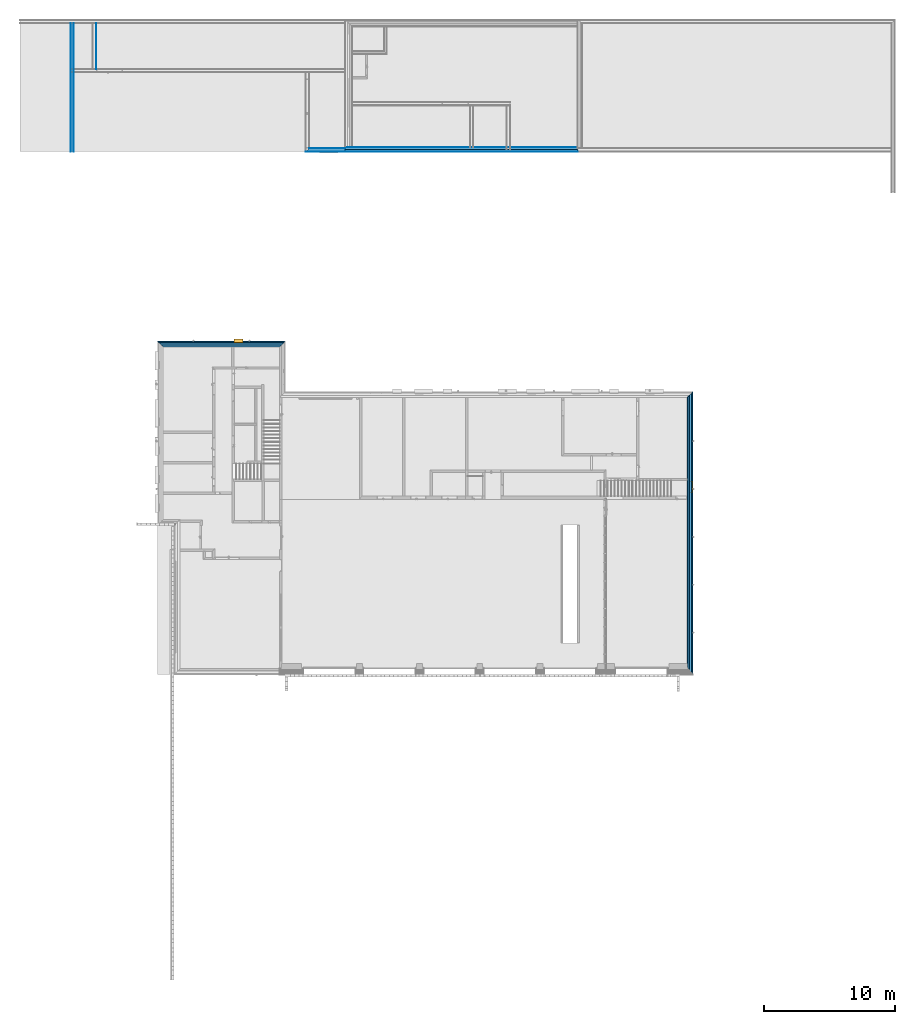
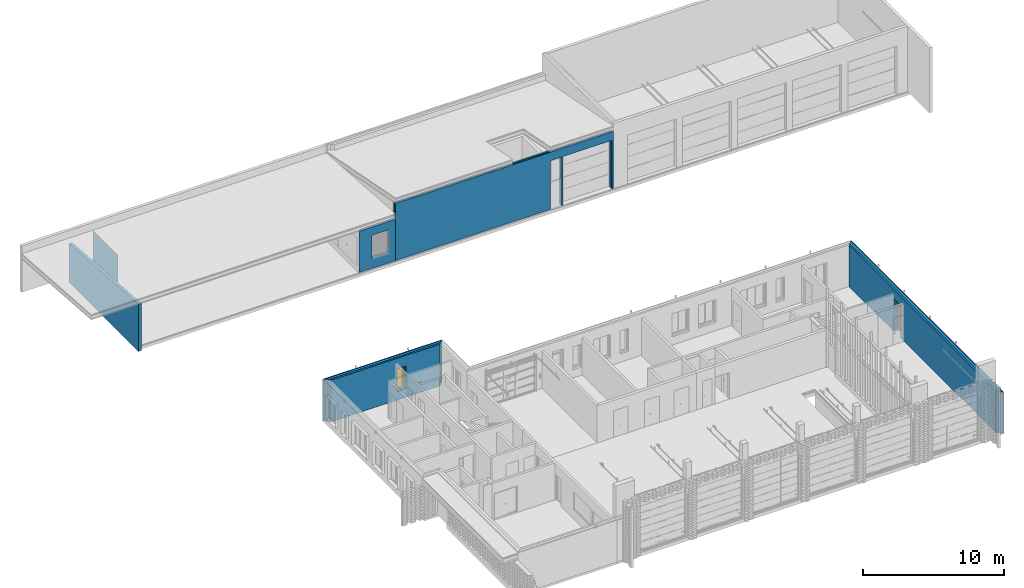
# One storey, part 22 of 62: 17 building element parts, 1 door, 1 window, 8 openings, 6 elements without a shape of their own.
"""IFC2X3 building model written with IfcOpenShell, lengths in millimetres."""

from ifc_helpers import new_model, entity, si_unit, converted_unit, derived_unit, money_unit, direction, frame, origin_with_axes, origin_2d_with_axis, place, context, subcontext, project, spatial, polyline, rectangle, outline, extrude, clip, bounded_halfspace, open_shell, faceted_brep, surface_model, source, transform, mapped, material, type_object, element, fill, aggregate, save


model = new_model("IFC2X3")

# Units and contexts
model_context = context("Model", 3, precision=0.01, world=origin_with_axes(), true_north=direction((0.0, 1.0)))
body_context = subcontext(model_context, "Body", "Model", "MODEL_VIEW")
ifc_project = project(units=[si_unit("LENGTHUNIT", "METRE", prefix="MILLI"), si_unit("AREAUNIT", "SQUARE_METRE"), si_unit("VOLUMEUNIT", "CUBIC_METRE"), converted_unit("PLANEANGLEUNIT", "DEGREE", entity("IfcPlaneAngleMeasure", 0.0174532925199), si_unit("PLANEANGLEUNIT", "RADIAN"), dimensions=[0, 0, 0, 0, 0, 0, 0]), si_unit("SOLIDANGLEUNIT", "STERADIAN"), money_unit("EUR"), converted_unit("TIMEUNIT", "Year", entity("IfcTimeMeasure", 31556926.0), si_unit("TIMEUNIT", "SECOND"), dimensions=[0, 0, 1, 0, 0, 0, 0]), si_unit("MASSUNIT", "GRAM", prefix="KILO"), si_unit("THERMODYNAMICTEMPERATUREUNIT", "DEGREE_CELSIUS"), si_unit("LUMINOUSINTENSITYUNIT", "LUMEN"), si_unit("ENERGYUNIT", "JOULE", prefix="MEGA"), derived_unit("THERMALCONDUCTANCEUNIT", [(si_unit("POWERUNIT", "WATT"), 1), (si_unit("LENGTHUNIT", "METRE"), -1), (si_unit("THERMODYNAMICTEMPERATUREUNIT", "KELVIN"), -1)]), derived_unit("SPECIFICHEATCAPACITYUNIT", [(si_unit("ENERGYUNIT", "JOULE"), 1), (si_unit("MASSUNIT", "GRAM", prefix="KILO"), -1), (si_unit("THERMODYNAMICTEMPERATUREUNIT", "KELVIN"), -1)]), derived_unit("MASSDENSITYUNIT", [(si_unit("MASSUNIT", "GRAM", prefix="KILO"), 1), (si_unit("VOLUMEUNIT", "CUBIC_METRE"), -1)])], contexts=[model_context])

# Site, building, storey
site_placement = place(None, origin_with_axes())
site = spatial("IfcSite", under=ifc_project, at=site_placement, Name="KIRDE 14, ELVA", CompositionType="ELEMENT")
building_placement = place(site_placement, origin_with_axes())
building = spatial("IfcBuilding", under=site, at=building_placement, Name="PPA ja Päästeameti ühishoone", CompositionType="ELEMENT")
storey_placement = place(building_placement, origin_with_axes())
storey = spatial("IfcBuildingStorey", under=building, at=storey_placement, Name="Esimene korrus", CompositionType="ELEMENT", Elevation=0.0)

# Window
window_style = type_object("IfcWindowStyle", Name="Window 24", ConstructionType="NOTDEFINED", OperationType="SINGLE_PANEL", ParameterTakesPrecedence=False, Sizeable=False)
shared_shape_1 = source(origin_with_axes(), body_context, "Body", "SurfaceModel", [
    faceted_brep([(350.0, -50.0, 0.0), (350.0, -130.0, 0.0), (-350.0, -130.0, 0.0), (-350.0, -50.0, 0.0), (350.0, -50.0, 2000.0), (350.0, -130.0, 2000.0), (-350.0, -130.0, 2000.0), (345.0, -130.0, 5.0), (-345.0, -130.0, 5.0), (-345.0, -130.0, 1995.0), (345.0, -130.0, 1995.0), (-350.0, -50.0, 2000.0), (345.0, -50.0, 5.0), (345.0, -50.0, 1995.0), (-345.0, -50.0, 1995.0), (-345.0, -50.0, 5.0)], [[[0, 1, 2, 3]], [[4, 5, 1, 0]], [[1, 5, 6, 2], [7, 8, 9, 10]], [[3, 2, 6, 11]], [[0, 3, 11, 4], [12, 13, 14, 15]], [[11, 6, 5, 4]], [[15, 8, 7, 12]], [[14, 9, 8, 15]], [[13, 10, 9, 14]], [[12, 7, 10, 13]]]),
    faceted_brep([(350.0, -330.0, 0.0), (345.0, -330.0, 5.0), (345.0, -130.0, 5.0), (350.0, -130.0, 0.0), (350.0, -330.0, 2000.0), (345.0, -330.0, 1995.0), (345.0, -130.0, 1995.0), (350.0, -130.0, 2000.0)], [[[0, 1, 2, 3]], [[0, 4, 5, 1]], [[1, 5, 6, 2]], [[3, 2, 6, 7]], [[4, 0, 3, 7]], [[5, 4, 7, 6]]]),
    faceted_brep([(-350.0, -330.0, 2000.0), (-345.0, -330.0, 1995.0), (-345.0, -130.0, 1995.0), (-350.0, -130.0, 2000.0), (-350.0, -330.0, 0.0), (-345.0, -330.0, 5.0), (-345.0, -130.0, 5.0), (-350.0, -130.0, 0.0)], [[[0, 1, 2, 3]], [[0, 4, 5, 1]], [[1, 5, 6, 2]], [[3, 2, 6, 7]], [[4, 0, 3, 7]], [[5, 4, 7, 6]]]),
    faceted_brep([(-350.0, -330.0, 0.0), (-345.0, -330.0, 5.0), (-345.0, -130.0, 5.0), (-350.0, -130.0, 0.0), (350.0, -330.0, 0.0), (345.0, -330.0, 5.0), (345.0, -130.0, 5.0), (350.0, -130.0, 0.0)], [[[0, 1, 2, 3]], [[0, 4, 5, 1]], [[1, 5, 6, 2]], [[3, 2, 6, 7]], [[4, 0, 3, 7]], [[5, 4, 7, 6]]]),
    faceted_brep([(350.0, -330.0, 2000.0), (345.0, -330.0, 1995.0), (345.0, -130.0, 1995.0), (350.0, -130.0, 2000.0), (-350.0, -330.0, 2000.0), (-345.0, -330.0, 1995.0), (-345.0, -130.0, 1995.0), (-350.0, -130.0, 2000.0)], [[[0, 1, 2, 3]], [[0, 4, 5, 1]], [[1, 5, 6, 2]], [[3, 2, 6, 7]], [[4, 0, 3, 7]], [[5, 4, 7, 6]]]),
    faceted_brep([(235.0, -50.0, 1885.0), (350.0, -50.0, 1885.0), (350.0, 0.0, 1885.0), (235.0, 0.0, 1885.0), (235.0, -50.0, 115.0), (350.0, -50.0, 115.0), (350.0, 0.0, 115.0), (235.0, 0.0, 115.0)], [[[0, 1, 2, 3]], [[0, 4, 5, 1]], [[1, 5, 6, 2]], [[3, 2, 6, 7]], [[4, 0, 3, 7]], [[5, 4, 7, 6]]]),
    faceted_brep([(-235.0, -50.0, 115.0), (-350.0, -50.0, 115.0), (-350.0, 0.0, 115.0), (-235.0, 0.0, 115.0), (-235.0, -50.0, 1885.0), (-350.0, -50.0, 1885.0), (-350.0, 0.0, 1885.0), (-235.0, 0.0, 1885.0)], [[[0, 1, 2, 3]], [[0, 4, 5, 1]], [[1, 5, 6, 2]], [[3, 2, 6, 7]], [[4, 0, 3, 7]], [[5, 4, 7, 6]]]),
    faceted_brep([(235.0, -50.0, 115.0), (350.0, -50.0, 115.0), (350.0, 0.0, 115.0), (235.0, 0.0, 115.0), (-235.0, -50.0, 115.0), (-350.0, -50.0, 115.0), (-350.0, -50.0, 0.0), (350.0, -50.0, 0.0), (350.0, 0.0, 0.0), (-350.0, 0.0, 0.0), (-350.0, 0.0, 115.0), (-235.0, 0.0, 115.0)], [[[0, 1, 2, 3]], [[0, 4, 5, 6, 7, 1]], [[1, 7, 8, 2]], [[3, 2, 8, 9, 10, 11]], [[4, 0, 3, 11]], [[5, 4, 11, 10]], [[6, 5, 10, 9]], [[7, 6, 9, 8]]]),
    faceted_brep([(-235.0, -50.0, 1885.0), (-350.0, -50.0, 1885.0), (-350.0, 0.0, 1885.0), (-235.0, 0.0, 1885.0), (235.0, -50.0, 1885.0), (350.0, -50.0, 1885.0), (350.0, -50.0, 2000.0), (-350.0, -50.0, 2000.0), (-350.0, 0.0, 2000.0), (350.0, 0.0, 2000.0), (350.0, 0.0, 1885.0), (235.0, 0.0, 1885.0)], [[[0, 1, 2, 3]], [[0, 4, 5, 6, 7, 1]], [[1, 7, 8, 2]], [[3, 2, 8, 9, 10, 11]], [[4, 0, 3, 11]], [[5, 4, 11, 10]], [[6, 5, 10, 9]], [[7, 6, 9, 8]]]),
    surface_model("IfcShellBasedSurfaceModel", [(235.0, -35.0, 115.0), (235.0, -35.0, 1885.0), (-235.0, -35.0, 1885.0), (-235.0, -35.0, 115.0)], [open_shell([[[0, 1, 2, 3]]])]),
    surface_model("IfcShellBasedSurfaceModel", [(235.0, -15.0, 115.0), (-235.0, -15.0, 115.0), (-235.0, -15.0, 1885.0), (235.0, -15.0, 1885.0)], [open_shell([[[0, 1, 2, 3]]])]),
])
wall_3_placement = place(storey_placement, frame((9.31322574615e-07, 24599.8167323, 0.0), z_axis=(0.0, 0.0, 1.0), x_axis=(1.0, 4.18571937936e-10, 0.0)))
opening_3_placement = place(wall_3_placement, frame((5760.00000859, 0.0, 700.0), z_axis=(0.0, 0.0, 1.0), x_axis=(1.0, 0.0, 0.0)))
window_placement = place(opening_3_placement, frame((350.0, 0.0, 0.0), z_axis=(0.0, 0.0, 1.0), x_axis=(-1.0, 0.0, 0.0)))
window = element("IfcWindow", 1, at=window_placement, inside=storey, type_object=window_style, Name="A-01", ObjectType="WINDOW", OverallHeight=2000.0, OverallWidth=700.0, context=body_context, shape_type="MappedRepresentation", body=[
    mapped(shared_shape_1, transform((349.999999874, -299.999997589, 0.0))),
])

# Door
door_style = type_object("IfcDoorStyle", Name="Door with Transom 24", ConstructionType="NOTDEFINED", OperationType="SINGLE_SWING_LEFT", ParameterTakesPrecedence=False, Sizeable=False)
shared_shape_2 = source(origin_with_axes(), body_context, "Body", "SurfaceModel", [
    faceted_brep([(410.0, -40.0, 2312.0), (410.0, -40.0, 0.0), (410.0, -115.0, 0.0), (410.0, -115.0, 2300.0), (410.0, -115.0, 2340.0), (410.0, 0.0, 2340.0), (410.0, 0.0, 2312.0), (422.0, -40.0, 2312.0), (422.0, -40.0, 0.0), (422.0, 0.0, 0.0), (450.0, 0.0, 0.0), (450.0, -115.0, 0.0), (450.0, -115.0, 2760.0), (410.0, -115.0, 2760.0), (410.0, 0.0, 2760.0), (422.0, 0.0, 2312.0), (450.0, 0.0, 2760.0)], [[[0, 1, 2, 3, 4, 5, 6]], [[0, 7, 8, 1]], [[8, 9, 10, 11, 2, 1]], [[4, 3, 2, 11, 12, 13]], [[14, 5, 4, 13]], [[15, 6, 5, 14, 16, 10, 9]], [[6, 15, 7, 0]], [[9, 8, 7, 15]], [[10, 16, 12, 11]], [[16, 14, 13, 12]]]),
    faceted_brep([(-422.0, 0.0, 2312.0), (-422.0, 0.0, 0.0), (-450.0, 0.0, 0.0), (-450.0, 0.0, 2760.0), (-410.0, 0.0, 2760.0), (-410.0, 0.0, 2340.0), (-410.0, 0.0, 2312.0), (-422.0, -40.0, 2312.0), (-422.0, -40.0, 0.0), (-410.0, -40.0, 0.0), (-410.0, -115.0, 0.0), (-450.0, -115.0, 0.0), (-450.0, -115.0, 2760.0), (-410.0, -115.0, 2760.0), (-410.0, -115.0, 2340.0), (-410.0, -40.0, 2312.0), (-410.0, -115.0, 2300.0)], [[[0, 1, 2, 3, 4, 5, 6]], [[0, 7, 8, 1]], [[8, 9, 10, 11, 2, 1]], [[3, 2, 11, 12]], [[4, 3, 12, 13]], [[5, 4, 13, 14]], [[15, 6, 5, 14, 16, 10, 9]], [[6, 15, 7, 0]], [[8, 7, 15, 9]], [[14, 13, 12, 11, 10, 16]]]),
    faceted_brep([(450.0, 0.0, 2800.0), (450.0, -115.0, 2800.0), (450.0, -115.0, 2760.0), (450.0, 0.0, 2760.0), (-450.0, 0.0, 2800.0), (-450.0, -115.0, 2800.0), (-450.0, -115.0, 2760.0), (-410.0, -115.0, 2760.0), (410.0, -115.0, 2760.0), (410.0, 0.0, 2760.0), (-410.0, 0.0, 2760.0), (-450.0, 0.0, 2760.0)], [[[0, 1, 2, 3]], [[4, 5, 1, 0]], [[1, 5, 6, 7, 8, 2]], [[3, 2, 8, 9]], [[0, 3, 9, 10, 11, 4]], [[11, 6, 5, 4]], [[10, 7, 6, 11]], [[9, 8, 7, 10]]]),
    faceted_brep([(-410.0, -40.0, 2312.0), (-410.0, -40.0, 2300.0), (-410.0, -115.0, 2300.0), (-410.0, -115.0, 2340.0), (-410.0, 0.0, 2340.0), (-410.0, 0.0, 2312.0), (410.0, -40.0, 2312.0), (410.0, -40.0, 2300.0), (410.0, -115.0, 2300.0), (410.0, -115.0, 2340.0), (410.0, 0.0, 2340.0), (410.0, 0.0, 2312.0)], [[[0, 1, 2, 3, 4, 5]], [[0, 6, 7, 1]], [[7, 8, 2, 1]], [[8, 9, 3, 2]], [[10, 4, 3, 9]], [[5, 4, 10, 11]], [[5, 11, 6, 0]], [[6, 11, 10, 9, 8, 7]]]),
    faceted_brep([(-422.0, 0.0, 0.0), (422.0, 0.0, 0.0), (422.0, -40.0, 0.0), (-422.0, -40.0, 0.0), (-422.0, 0.0, 2312.0), (422.0, 0.0, 2312.0), (422.0, -40.0, 2312.0), (-422.0, -40.0, 2312.0)], [[[0, 1, 2, 3]], [[0, 4, 5, 1]], [[1, 5, 6, 2]], [[3, 2, 6, 7]], [[4, 0, 3, 7]], [[5, 4, 7, 6]]]),
    surface_model("IfcShellBasedSurfaceModel", [(410.0, -51.5, 2340.0), (-410.0, -51.5, 2340.0), (-410.0, -51.5, 2760.0), (410.0, -51.5, 2760.0)], [open_shell([[[0, 1, 2, 3]]])]),
    surface_model("IfcShellBasedSurfaceModel", [(410.0, -63.5, 2340.0), (410.0, -63.5, 2760.0), (-410.0, -63.5, 2760.0), (-410.0, -63.5, 2340.0)], [open_shell([[[0, 1, 2, 3]]])]),
])
wall_5_placement = place(storey_placement, frame((40044.7048824, 20749.5916413, 0.0), z_axis=(0.0, 0.0, 1.0), x_axis=(0.0, -1.0, 0.0)))
opening_8_placement = place(wall_5_placement, frame((6820.59107696, 0.0, 0.0), z_axis=(0.0, 0.0, 1.0), x_axis=(1.0, 0.0, 0.0)))
door_placement = place(opening_8_placement, frame((-450.0, 0.0, 0.0), z_axis=(0.0, 0.0, 1.0), x_axis=(1.0, 0.0, 0.0)))
door = element("IfcDoor", 2, at=door_placement, inside=storey, type_object=door_style, Name="VU-03", ObjectType="DOOR", OverallHeight=2800.0, OverallWidth=900.0, context=body_context, shape_type="MappedRepresentation", body=[
    mapped(shared_shape_2, transform((450.0, 430.0, 0.0))),
])

# Wall, openings, building element parts
wall_type_1 = type_object("IfcWallType", Name="A-VS01b 350", PredefinedType="NOTDEFINED")
wall_1_placement = place(storey_placement, frame((13908.9731322, 39534.5478473, 0.0), z_axis=(0.0, 0.0, 1.0), x_axis=(1.0, 0.0, 0.0)))
wall_1 = element("IfcWall", 3, at=wall_1_placement, inside=storey, type_object=wall_type_1, Name="VS-04")
opening_1_placement = place(wall_1_placement, frame((15651.6486447, 0.0, 0.0), z_axis=(0.0, 0.0, 1.0), x_axis=(1.0, 0.0, 0.0)))
element("IfcOpeningElement", 4, at=opening_1_placement, cuts=wall_1, Name="GUA-03", context=body_context, shape_type="SweptSolid", body=[
    extrude(rectangle(XDim=4000.0, YDim=4200.0, at=origin_2d_with_axis()), frame((0.0, 350.0, 2100.0), z_axis=(0.0, -1.0, 0.0), x_axis=(1.0, 0.0, 0.0)), (0.0, 0.0, 1.0), 1050.0),
])
opening_2_placement = place(wall_1_placement, frame((13067.6818848, 0.0, 0.0), z_axis=(0.0, 0.0, 1.0), x_axis=(1.0, 0.0, 0.0)))
element("IfcOpeningElement", 5, at=opening_2_placement, cuts=wall_1, Name="VU-03", context=body_context, shape_type="SweptSolid", body=[
    extrude(rectangle(XDim=900.0, YDim=4200.0, at=origin_2d_with_axis()), frame((0.0, 350.0, 2100.0), z_axis=(0.0, -1.0, 0.0), x_axis=(-1.0, 0.0, 0.0)), (0.0, 0.0, 1.0), 1050.0),
])
ifc_material_1 = material(Name="Krohv")
building_element_part_1_placement = place(wall_1_placement, origin_with_axes())
building_element_part_1 = element("IfcBuildingElementPart", 6, at=building_element_part_1_placement, material=ifc_material_1, Name="Krohv", context=body_context, shape_type="Clipping", body=[
    clip(extrude(outline(polyline([(0.0, 0.0), (17768.648645, 0.0), (17768.648645, 5.0), (0.0, 5.0), (0.0, 0.0)])), origin_with_axes(), (0.0, 0.0, 1.0), 4926.12680401), bounded_halfspace(frame((-3.23675819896e-07, 921.145515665, 4747.39530899), z_axis=(0.0, -0.190479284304, -0.981691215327), x_axis=(0.0, 0.981691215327, -0.190479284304)), True, origin_with_axes(), polyline([(-10.0, -10.0), (17768.648645, -10.0), (17768.648645, 360.0), (-10.0, 360.0), (-10.0, -10.0)]))),
])
ifc_material_2 = material(Name="Mineraalvill")
building_element_part_2_placement = place(wall_1_placement, origin_with_axes())
building_element_part_2 = element("IfcBuildingElementPart", 7, at=building_element_part_2_placement, material=ifc_material_2, Name="Mineraalvill", context=body_context, shape_type="Clipping", body=[
    clip(extrude(outline(polyline([(0.0, 5.0), (17768.648645, 5.0), (17768.648645, 155.0), (0.0, 155.0), (0.0, 5.0)])), origin_with_axes(), (0.0, 0.0, 1.0), 4926.12680401), bounded_halfspace(frame((-3.23675819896e-07, 921.145515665, 4747.39530899), z_axis=(0.0, -0.190479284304, -0.981691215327), x_axis=(0.0, 0.981691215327, -0.190479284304)), True, origin_with_axes(), polyline([(-10.0, -10.0), (17768.648645, -10.0), (17768.648645, 360.0), (-10.0, 360.0), (-10.0, -10.0)]))),
])
ifc_material_3 = material(Name="COLUMBIA KIVI")
building_element_part_3_placement = place(wall_1_placement, origin_with_axes())
building_element_part_3 = element("IfcBuildingElementPart", 8, at=building_element_part_3_placement, material=ifc_material_3, Name="COLUMBIA KIVI", context=body_context, shape_type="Clipping", body=[
    clip(extrude(outline(polyline([(0.0, 155.0), (17768.648645, 155.0), (17768.648645, 345.0), (0.0, 345.0), (0.0, 155.0)])), origin_with_axes(), (0.0, 0.0, 1.0), 4926.12680401), bounded_halfspace(frame((-3.23675819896e-07, 921.145515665, 4747.39530899), z_axis=(0.0, -0.190479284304, -0.981691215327), x_axis=(0.0, 0.981691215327, -0.190479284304)), True, origin_with_axes(), polyline([(-10.0, -10.0), (17768.648645, -10.0), (17768.648645, 360.0), (-10.0, 360.0), (-10.0, -10.0)]))),
])
building_element_part_4_placement = place(wall_1_placement, origin_with_axes())
building_element_part_4 = element("IfcBuildingElementPart", 9, at=building_element_part_4_placement, material=ifc_material_1, Name="Krohv", context=body_context, shape_type="Clipping", body=[
    clip(extrude(outline(polyline([(0.0, 345.0), (17768.648645, 345.0), (17768.648645, 350.0), (0.0, 350.0), (0.0, 345.0)])), origin_with_axes(), (0.0, 0.0, 1.0), 4926.12680401), bounded_halfspace(frame((-3.23675819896e-07, 921.145515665, 4747.39530899), z_axis=(0.0, -0.190479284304, -0.981691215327), x_axis=(0.0, 0.981691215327, -0.190479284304)), True, origin_with_axes(), polyline([(-10.0, -10.0), (17768.648645, -10.0), (17768.648645, 360.0), (-10.0, 360.0), (-10.0, -10.0)]))),
])
aggregate(wall_1, [building_element_part_1, building_element_part_2, building_element_part_3, building_element_part_4])

# Proxy, building element part
building_element_proxy_type = type_object("IfcBuildingElementProxyType", Name="A-SS01 260", PredefinedType="NOTDEFINED")
proxy_placement = place(storey_placement, frame((-5113.09739957, 45593.5478741, 0.0), z_axis=(0.0, 0.0, 1.0), x_axis=(0.0, 1.0, 0.0)))
proxy = element("IfcBuildingElementProxy", 10, at=proxy_placement, inside=storey, type_object=building_element_proxy_type, Name="VS-06")
building_element_part_5_placement = place(proxy_placement, origin_with_axes())
building_element_part_5 = element("IfcBuildingElementPart", 11, at=building_element_part_5_placement, material=ifc_material_1, Name="Krohv", context=body_context, shape_type="SweptSolid", body=[
    extrude(outline(polyline([(250.0, 0.0), (3755.00002539, 0.0), (3755.00002539, 5.0), (250.0, 5.0), (250.0, 0.0)])), origin_with_axes(), (0.0, 0.0, 1.0), 3322.35109752),
])
aggregate(proxy, [building_element_part_5])

# Wall, building element parts
wall_type_2 = type_object("IfcWallType", Name="A-VS02 250", PredefinedType="NOTDEFINED")
wall_2_placement = place(storey_placement, frame((-6826.83148172, 49598.5478995, -500.0), z_axis=(0.0, 0.0, 1.0), x_axis=(0.0, -1.0, 0.0)))
wall_2 = element("IfcWall", 12, at=wall_2_placement, inside=storey, type_object=wall_type_2, Name="A-VS01")
building_element_part_6_placement = place(wall_2_placement, origin_with_axes())
building_element_part_6 = element("IfcBuildingElementPart", 13, at=building_element_part_6_placement, material=ifc_material_1, Name="Krohv", context=body_context, shape_type="Clipping", body=[
    clip(clip(extrude(outline(polyline([(250.0, -5.0), (10064.0000596, -5.0), (10064.0000596, 0.0), (250.0, 0.0), (250.0, -5.0)])), origin_with_axes(), (0.0, 0.0, 1.0), 4220.77245672), bounded_halfspace(frame((-236.092735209, -9.72152171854e-08, 3348.02319989), z_axis=(0.0703423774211, 0.0, -0.997522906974), x_axis=(0.0, 1.0, 0.0)), True, origin_with_axes(), polyline([(199.990015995, -260.0), (10064.0000595, -260.0), (10064.0000594, 10.0), (199.990015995, 10.0), (199.990015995, -260.0)]))), bounded_halfspace(frame((-245.916273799, 0.0, 3487.33047284), z_axis=(0.0703423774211, 0.0, -0.997522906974), x_axis=(0.0, 1.0, 0.0)), True, origin_with_axes(), polyline([(4.99002557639, -260.0), (10155.0000256, -260.0), (10155.0000256, 10.0), (4.99002557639, 10.0), (4.99002557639, -260.0)]))),
])
ifc_material_4 = material(Name="COLUMBIA KIVI (BETONEERITUD)")
building_element_part_7_placement = place(wall_2_placement, origin_with_axes())
building_element_part_7 = element("IfcBuildingElementPart", 14, at=building_element_part_7_placement, material=ifc_material_4, Name="COLUMBIA KIVI (BETONEERITUD)", context=body_context, shape_type="Clipping", body=[
    clip(clip(extrude(outline(polyline([(250.0, -245.0), (10064.0000596, -245.0), (10064.0000596, -5.0), (250.0, -5.0), (250.0, -245.0)])), origin_with_axes(), (0.0, 0.0, 1.0), 4220.77245672), bounded_halfspace(frame((-236.092735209, -9.72152171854e-08, 3348.02319989), z_axis=(0.0703423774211, 0.0, -0.997522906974), x_axis=(0.0, 1.0, 0.0)), True, origin_with_axes(), polyline([(199.990015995, -260.0), (10064.0000595, -260.0), (10064.0000594, 10.0), (199.990015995, 10.0), (199.990015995, -260.0)]))), bounded_halfspace(frame((-245.916273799, 0.0, 3487.33047284), z_axis=(0.0703423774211, 0.0, -0.997522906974), x_axis=(0.0, 1.0, 0.0)), True, origin_with_axes(), polyline([(4.99002557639, -260.0), (10155.0000256, -260.0), (10155.0000256, 10.0), (4.99002557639, 10.0), (4.99002557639, -260.0)]))),
])
building_element_part_8_placement = place(wall_2_placement, origin_with_axes())
building_element_part_8 = element("IfcBuildingElementPart", 15, at=building_element_part_8_placement, material=ifc_material_1, Name="Krohv", context=body_context, shape_type="Clipping", body=[
    clip(clip(extrude(outline(polyline([(250.0, -250.0), (10064.0000596, -250.0), (10064.0000596, -245.0), (250.0, -245.0), (250.0, -250.0)])), origin_with_axes(), (0.0, 0.0, 1.0), 4220.77245672), bounded_halfspace(frame((-236.092735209, -9.72152171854e-08, 3348.02319989), z_axis=(0.0703423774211, 0.0, -0.997522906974), x_axis=(0.0, 1.0, 0.0)), True, origin_with_axes(), polyline([(199.990015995, -260.0), (10064.0000595, -260.0), (10064.0000594, 10.0), (199.990015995, 10.0), (199.990015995, -260.0)]))), bounded_halfspace(frame((-245.916273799, 0.0, 3487.33047284), z_axis=(0.0703423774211, 0.0, -0.997522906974), x_axis=(0.0, 1.0, 0.0)), True, origin_with_axes(), polyline([(4.99002557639, -260.0), (10155.0000256, -260.0), (10155.0000256, 10.0), (4.99002557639, 10.0), (4.99002557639, -260.0)]))),
])
aggregate(wall_2, [building_element_part_6, building_element_part_7, building_element_part_8])

# Wall, opening
wall_type_3 = type_object("IfcWallType", Name="VS-01 430", PredefinedType="NOTDEFINED")
wall_3 = element("IfcWall", 16, at=wall_3_placement, inside=storey, type_object=wall_type_3, Name="VS-01")
opening_3 = element("IfcOpeningElement", 17, at=opening_3_placement, cuts=wall_3, Name="A-01", context=body_context, shape_type="SweptSolid", body=[
    extrude(rectangle(XDim=700.0, YDim=2000.0, at=origin_2d_with_axis()), frame((1.46500589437e-07, 349.999997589, 1000.0), z_axis=(-4.18571937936e-10, -1.0, 0.0), x_axis=(1.0, -4.185720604e-10, 0.0)), (0.0, 0.0, 1.0), 780.0),
    extrude(rectangle(XDim=700.0, YDim=2000.0, at=origin_2d_with_axis()), frame((1.46500589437e-07, 349.999997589, 1000.0), z_axis=(4.18571937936e-10, 1.0, 0.0), x_axis=(1.0, -4.185720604e-10, 0.0)), (0.0, 0.0, 1.0), 510.0),
    extrude(rectangle(XDim=700.0, YDim=2000.0, at=origin_2d_with_axis()), frame((1.79985804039e-07, 429.999997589, 1000.0), z_axis=(4.18571937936e-10, 1.0, 0.0), x_axis=(1.0, -4.185720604e-10, 0.0)), (0.0, 0.0, 1.0), 510.0),
])

fill(opening_3, window)

# Opening
opening_4_placement = place(wall_3_placement, frame((-1.12281155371e-05, -24599.8167323, 0.0), z_axis=(0.0, 0.0, 1.0), x_axis=(1.0, -4.18571937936e-10, 0.0)))
element("IfcOpeningElement", 18, at=opening_4_placement, cuts=wall_3, Name="AVA", ObjectType="OPENING", context=body_context, shape_type="SweptSolid", body=[
    extrude(rectangle(XDim=1400.0, YDim=2027.90155335, at=origin_2d_with_axis()), frame((7850.00005194, 24899.8167356, 1713.95077668), z_axis=(4.18571937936e-10, -1.0, 0.0), x_axis=(1.0, 4.18571937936e-10, 0.0)), (0.0, 0.0, -1.0), 560.000004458),
])

opening_5_placement = place(wall_3_placement, frame((-1.12281155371e-05, -24599.8167323, 0.0), z_axis=(0.0, 0.0, 1.0), x_axis=(1.0, -4.18571937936e-10, 0.0)))
element("IfcOpeningElement", 19, at=opening_5_placement, cuts=wall_3, Name="AVA", ObjectType="OPENING", context=body_context, shape_type="SweptSolid", body=[
    extrude(rectangle(XDim=1400.0, YDim=2027.90155335, at=origin_2d_with_axis()), frame((3230.00000923, 24899.8167336, 1713.95077668), z_axis=(4.18571937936e-10, -1.0, 0.0), x_axis=(1.0, 4.18571937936e-10, 0.0)), (0.0, 0.0, -1.0), 560.000006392),
])

opening_6_placement = place(wall_3_placement, frame((-1.12281155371e-05, -24599.8167323, 0.0), z_axis=(0.0, 0.0, 1.0), x_axis=(1.0, -4.18571937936e-10, 0.0)))
element("IfcOpeningElement", 20, at=opening_6_placement, cuts=wall_3, Name="AVA", ObjectType="OPENING", context=body_context, shape_type="SweptSolid", body=[
    extrude(rectangle(XDim=1400.0, YDim=2027.90155335, at=origin_2d_with_axis()), frame((1050.00000933, 24899.8167327, 1713.95077668), z_axis=(4.18571937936e-10, -1.0, 0.0), x_axis=(1.0, 4.18571937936e-10, 0.0)), (0.0, 0.0, -1.0), 560.000007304),
])

# Building element part
ifc_material_5 = material(Name="Raudbetoon Paneelid (2)")
building_element_part_9_placement = place(wall_3_placement, origin_with_axes())
building_element_part_9 = element("IfcBuildingElementPart", 21, at=building_element_part_9_placement, material=ifc_material_5, Name="Raudbetoon Paneelid (2)", context=body_context, shape_type="SweptSolid", body=[
    extrude(outline(polyline([(0.0, 0.0), (8900.00012144, 0.0), (9050.00012147, 150.0), (-149.999999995, 150.0), (0.0, 0.0)])), origin_with_axes(), (0.0, 0.0, 1.0), 3600.0),
])

ifc_material_6 = material(Name="Vahtpolüstüreen (4)")
building_element_part_10_placement = place(wall_3_placement, origin_with_axes())
building_element_part_10 = element("IfcBuildingElementPart", 22, at=building_element_part_10_placement, material=ifc_material_6, Name="Vahtpolüstüreen (4)", context=body_context, shape_type="SweptSolid", body=[
    extrude(outline(polyline([(-149.999999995, 150.0), (9050.00012147, 150.0), (9250.00012151, 350.0), (-349.999999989, 350.0), (-149.999999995, 150.0)])), origin_with_axes(), (0.0, 0.0, 1.0), 3600.0),
])

building_element_part_11_placement = place(wall_3_placement, origin_with_axes())
building_element_part_11 = element("IfcBuildingElementPart", 23, at=building_element_part_11_placement, material=ifc_material_5, Name="Raudbetoon Paneelid (2)", context=body_context, shape_type="SweptSolid", body=[
    extrude(outline(polyline([(-349.999999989, 350.0), (9250.00012151, 350.0), (9330.00012152, 430.0), (-429.999999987, 430.0), (-349.999999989, 350.0)])), origin_with_axes(), (0.0, 0.0, 1.0), 3600.0),
])

aggregate(wall_3, [building_element_part_9, building_element_part_10, building_element_part_11])

# Wall, opening, building element parts
wall_4_placement = place(storey_placement, frame((11159.4856153, 39784.5478473, 0.0), z_axis=(0.0, 0.0, 1.0), x_axis=(1.0, 0.0, 0.0)))
wall_4 = element("IfcWall", 24, at=wall_4_placement, inside=storey, type_object=wall_type_2, Name="VS-04")
opening_7_placement = place(wall_4_placement, frame((1497.8524724, 0.0, 850.0), z_axis=(0.0, 0.0, 1.0), x_axis=(1.0, 0.0, 0.0)))
element("IfcOpeningElement", 25, at=opening_7_placement, cuts=wall_4, Name="VR-01", context=body_context, shape_type="SweptSolid", body=[
    extrude(rectangle(XDim=1400.0, YDim=2000.0, at=origin_2d_with_axis()), frame((0.0, -170.0, 1000.0), z_axis=(0.0, -1.0, 0.0), x_axis=(-1.0, 0.0, 0.0)), (0.0, 0.0, -1.0), 420.0),
    extrude(rectangle(XDim=1400.0, YDim=2000.0, at=origin_2d_with_axis()), frame((0.0, -170.0, 1000.0), z_axis=(0.0, 1.0, 0.0), x_axis=(-1.0, 0.0, 0.0)), (0.0, 0.0, -1.0), 330.0),
    extrude(rectangle(XDim=1400.0, YDim=2000.0, at=origin_2d_with_axis()), frame((0.0, -250.0, 1000.0), z_axis=(0.0, 1.0, 0.0), x_axis=(-1.0, 0.0, 0.0)), (0.0, 0.0, -1.0), 330.0),
])
building_element_part_12_placement = place(wall_4_placement, origin_with_axes())
building_element_part_12 = element("IfcBuildingElementPart", 26, at=building_element_part_12_placement, material=ifc_material_1, Name="Krohv", context=body_context, shape_type="Clipping", body=[
    clip(clip(extrude(outline(polyline([(-5.2, -5.0), (2749.48751689, -5.0), (2749.48751689, 0.0), (0.0, 0.0), (-5.2, -5.0)])), origin_with_axes(), (0.0, 0.0, 1.0), 3873.52702542), bounded_halfspace(frame((-1.02764208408e-07, 249.568832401, 3539.12728449), z_axis=(0.0, -0.0703423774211, -0.997522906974), x_axis=(0.0, 0.997522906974, -0.0703423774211)), True, origin_with_axes(), polyline([(-22101.8973628, -260.0), (2744.48751675, -260.0), (2744.48751663, 10.0), (-22101.8973628, 10.0), (-22101.8973628, -260.0)]))), bounded_halfspace(frame((-1.06809217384e-07, 259.392370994, 3678.43455747), z_axis=(0.0, -0.0703423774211, -0.997522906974), x_axis=(0.0, 0.997522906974, -0.0703423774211)), True, origin_with_axes(), polyline([(-22101.8973627, -260.0), (2744.48751686, -260.0), (2744.48751675, 10.0), (-22101.8973627, 10.0), (-22101.8973627, -260.0)]))),
])
building_element_part_13_placement = place(wall_4_placement, origin_with_axes())
building_element_part_13 = element("IfcBuildingElementPart", 27, at=building_element_part_13_placement, material=ifc_material_4, Name="COLUMBIA KIVI (BETONEERITUD)", context=body_context, shape_type="Clipping", body=[
    clip(clip(extrude(outline(polyline([(-254.8, -245.0), (2749.48751689, -245.0), (2749.48751689, -5.0), (-5.2, -5.0), (-254.8, -245.0)])), origin_with_axes(), (0.0, 0.0, 1.0), 3873.52702542), bounded_halfspace(frame((-1.02764208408e-07, 249.568832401, 3539.12728449), z_axis=(0.0, -0.0703423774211, -0.997522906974), x_axis=(0.0, 0.997522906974, -0.0703423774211)), True, origin_with_axes(), polyline([(-22101.8973628, -260.0), (2744.48751675, -260.0), (2744.48751663, 10.0), (-22101.8973628, 10.0), (-22101.8973628, -260.0)]))), bounded_halfspace(frame((-1.06809217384e-07, 259.392370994, 3678.43455747), z_axis=(0.0, -0.0703423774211, -0.997522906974), x_axis=(0.0, 0.997522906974, -0.0703423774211)), True, origin_with_axes(), polyline([(-22101.8973627, -260.0), (2744.48751686, -260.0), (2744.48751675, 10.0), (-22101.8973627, 10.0), (-22101.8973627, -260.0)]))),
])
building_element_part_14_placement = place(wall_4_placement, origin_with_axes())
building_element_part_14 = element("IfcBuildingElementPart", 28, at=building_element_part_14_placement, material=ifc_material_1, Name="Krohv", context=body_context, shape_type="Clipping", body=[
    clip(clip(extrude(outline(polyline([(-260.0, -250.0), (2749.48751689, -250.0), (2749.48751689, -245.0), (-254.8, -245.0), (-260.0, -250.0)])), origin_with_axes(), (0.0, 0.0, 1.0), 3873.52702542), bounded_halfspace(frame((-1.02764208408e-07, 249.568832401, 3539.12728449), z_axis=(0.0, -0.0703423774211, -0.997522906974), x_axis=(0.0, 0.997522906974, -0.0703423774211)), True, origin_with_axes(), polyline([(-22101.8973628, -260.0), (2744.48751675, -260.0), (2744.48751663, 10.0), (-22101.8973628, 10.0), (-22101.8973628, -260.0)]))), bounded_halfspace(frame((-1.06809217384e-07, 259.392370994, 3678.43455747), z_axis=(0.0, -0.0703423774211, -0.997522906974), x_axis=(0.0, 0.997522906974, -0.0703423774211)), True, origin_with_axes(), polyline([(-22101.8973627, -260.0), (2744.48751686, -260.0), (2744.48751675, 10.0), (-22101.8973627, 10.0), (-22101.8973627, -260.0)]))),
])
aggregate(wall_4, [building_element_part_12, building_element_part_13, building_element_part_14])

# Wall, opening
wall_5 = element("IfcWall", 29, at=wall_5_placement, inside=storey, type_object=wall_type_3, Name="VS-01")
opening_8 = element("IfcOpeningElement", 30, at=opening_8_placement, cuts=wall_5, Name="VU-03", context=body_context, shape_type="SweptSolid", body=[
    extrude(rectangle(XDim=900.0, YDim=2800.0, at=origin_2d_with_axis()), frame((0.0, -430.0, 1400.0), z_axis=(0.0, -1.0, 0.0), x_axis=(-1.0, 0.0, 0.0)), (0.0, 0.0, -1.0), 1290.0),
])

fill(opening_8, door)

# Building element part
building_element_part_15_placement = place(wall_5_placement, origin_with_axes())
building_element_part_15 = element("IfcBuildingElementPart", 31, at=building_element_part_15_placement, material=ifc_material_5, Name="Raudbetoon Paneelid (2)", context=body_context, shape_type="SweptSolid", body=[
    extrude(outline(polyline([(0.0, 0.0), (20749.5917374, 0.0), (20899.5917374, 150.0), (-150.000000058, 150.0), (0.0, 0.0)])), origin_with_axes(), (0.0, 0.0, 1.0), 3600.0),
])

building_element_part_16_placement = place(wall_5_placement, origin_with_axes())
building_element_part_16 = element("IfcBuildingElementPart", 32, at=building_element_part_16_placement, material=ifc_material_6, Name="Vahtpolüstüreen (4)", context=body_context, shape_type="SweptSolid", body=[
    extrude(outline(polyline([(-150.000000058, 150.0), (20899.5917374, 150.0), (21099.5917373, 350.0), (-350.000000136, 350.0), (-150.000000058, 150.0)])), origin_with_axes(), (0.0, 0.0, 1.0), 3600.0),
])

building_element_part_17_placement = place(wall_5_placement, origin_with_axes())
building_element_part_17 = element("IfcBuildingElementPart", 33, at=building_element_part_17_placement, material=ifc_material_5, Name="Raudbetoon Paneelid (2)", context=body_context, shape_type="SweptSolid", body=[
    extrude(outline(polyline([(-350.000000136, 350.0), (21099.5917373, 350.0), (21179.5917373, 430.0), (-430.000000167, 430.0), (-350.000000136, 350.0)])), origin_with_axes(), (0.0, 0.0, 1.0), 3600.0),
])

aggregate(wall_5, [building_element_part_15, building_element_part_16, building_element_part_17])

save(model, "model.ifc")
